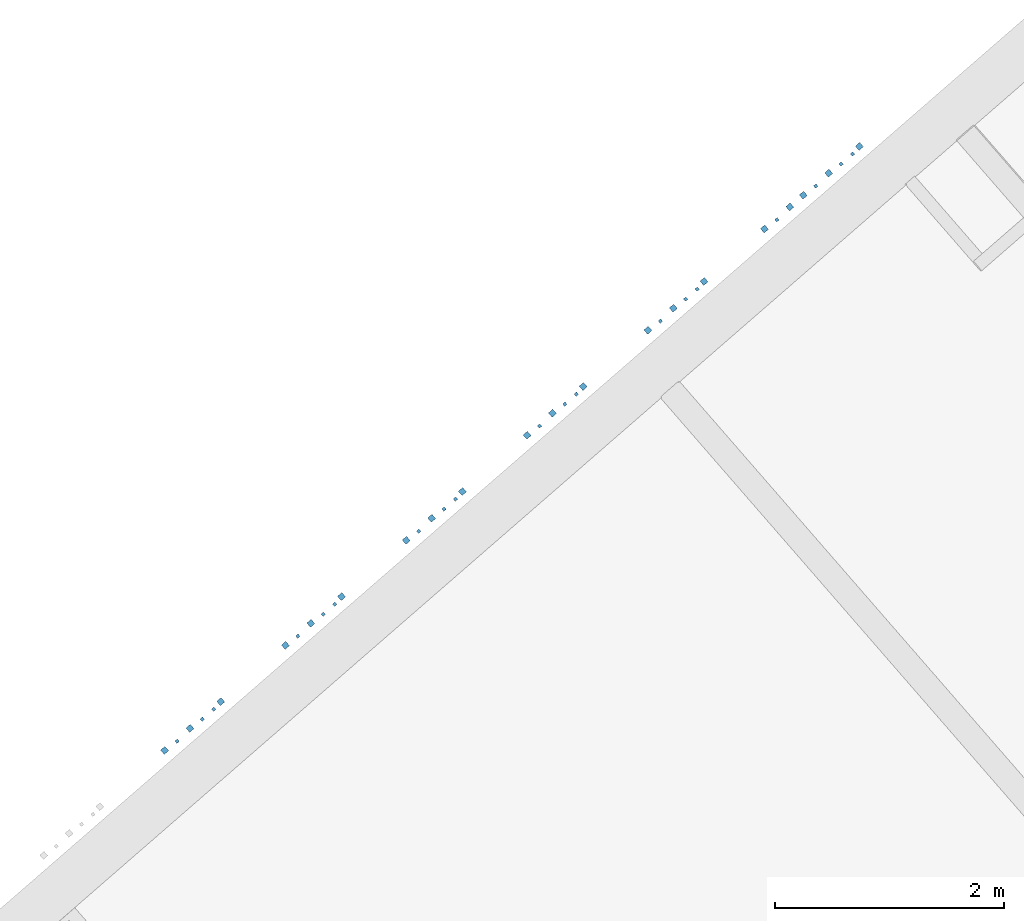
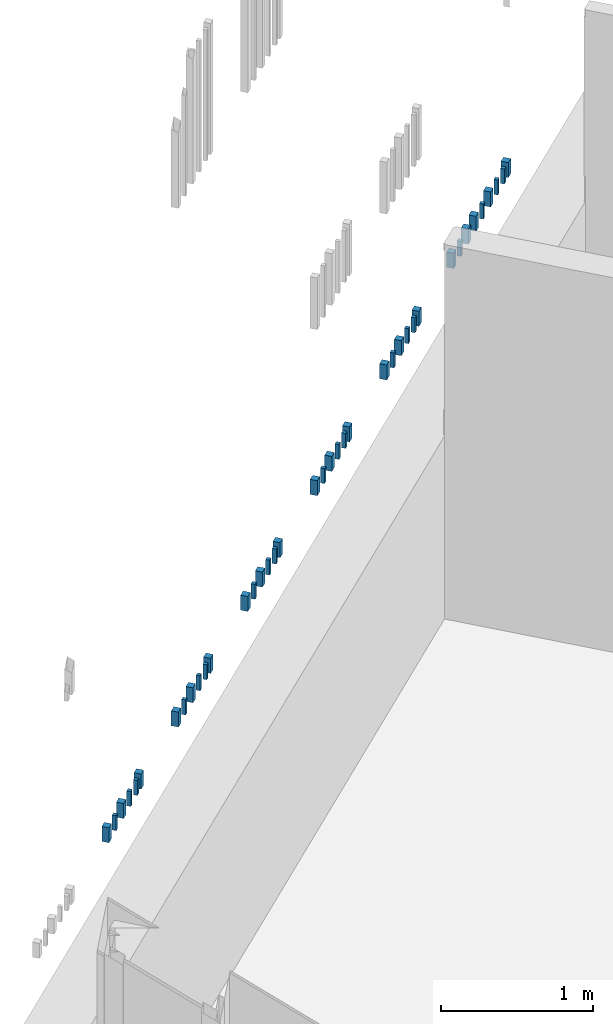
# One storey, part 4 of 124: 39 walls.
"""IFC2X3 building model written with IfcOpenShell, lengths in millimetres."""

from ifc_helpers import new_model, entity, si_unit, converted_unit, derived_unit, money_unit, direction, frame, origin_with_axes, origin_2d_with_axis, place, context, subcontext, project, spatial, rectangle, extrude, material, type_object, element, save


model = new_model("IFC2X3")

# Units and contexts
model_context = context("Model", 3, precision=1e-05, world=origin_with_axes(), true_north=direction((0.0, 1.0)))
body_context = subcontext(model_context, "Body", "Model", "MODEL_VIEW")
ifc_project = project(units=[si_unit("LENGTHUNIT", "METRE", prefix="MILLI"), si_unit("AREAUNIT", "SQUARE_METRE"), si_unit("VOLUMEUNIT", "CUBIC_METRE"), converted_unit("PLANEANGLEUNIT", "DEGREE", entity("IfcPlaneAngleMeasure", 0.0174532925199), si_unit("PLANEANGLEUNIT", "RADIAN"), dimensions=[0, 0, 0, 0, 0, 0, 0]), si_unit("SOLIDANGLEUNIT", "STERADIAN"), money_unit("EUR"), converted_unit("TIMEUNIT", "Year", entity("IfcTimeMeasure", 31556926.0), si_unit("TIMEUNIT", "SECOND"), dimensions=[0, 0, 1, 0, 0, 0, 0]), si_unit("MASSUNIT", "GRAM", prefix="KILO"), si_unit("THERMODYNAMICTEMPERATUREUNIT", "DEGREE_CELSIUS"), si_unit("LUMINOUSINTENSITYUNIT", "LUMEN"), si_unit("ENERGYUNIT", "JOULE", prefix="MEGA"), derived_unit("THERMALCONDUCTANCEUNIT", [(si_unit("POWERUNIT", "WATT"), 1), (si_unit("LENGTHUNIT", "METRE"), -1), (si_unit("THERMODYNAMICTEMPERATUREUNIT", "KELVIN"), -1)]), derived_unit("SPECIFICHEATCAPACITYUNIT", [(si_unit("ENERGYUNIT", "JOULE"), 1), (si_unit("MASSUNIT", "GRAM", prefix="KILO"), -1), (si_unit("THERMODYNAMICTEMPERATUREUNIT", "KELVIN"), -1)]), derived_unit("MASSDENSITYUNIT", [(si_unit("MASSUNIT", "GRAM", prefix="KILO"), 1), (si_unit("VOLUMEUNIT", "CUBIC_METRE"), -1)])], contexts=[model_context])

# Site, building, storey
site_placement = place(None, origin_with_axes())
site = spatial("IfcSite", under=ifc_project, at=site_placement, Name="Site", CompositionType="ELEMENT")
building_placement = place(site_placement, origin_with_axes())
building = spatial("IfcBuilding", under=site, at=building_placement, Name="Building", CompositionType="ELEMENT")
storey_placement = place(building_placement, frame((0.0, 0.0, -1615.0), z_axis=(0.0, 0.0, 1.0), x_axis=(1.0, 0.0, 0.0)))
storey = spatial("IfcBuildingStorey", under=building, at=storey_placement, Name="0  korrus", CompositionType="ELEMENT", Elevation=-1615.0)

# Walls
ifc_material = material(Name="Site specified")
wall_type = type_object("IfcWallType", Name="Puitfassaadi ribistik", PredefinedType="NOTDEFINED")
wall_1_placement = place(storey_placement, frame((153401.288708, 103371.546484, 1615.0), z_axis=(0.0, 0.0, 1.0), x_axis=(0.754709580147, 0.656059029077, 0.0)))
element("IfcWall", 1, at=wall_1_placement, inside=storey, type_object=wall_type, material=ifc_material, Name="Site specified", context=body_context, shape_type="SweptSolid", body=[
    extrude(rectangle(XDim=28.0, YDim=28.0, at=origin_2d_with_axis()), frame((0.0, 0.0, 0.0), z_axis=(0.0, 0.0, -1.0), x_axis=(-1.0, 0.0, 0.0)), (0.0, 0.0, -1.0), 120.0),
])
wall_2_placement = place(storey_placement, frame((153782.749862, 103717.72075, 1615.0), z_axis=(0.0, 0.0, 1.0), x_axis=(0.754709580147, 0.656059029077, 0.0)))
element("IfcWall", 2, at=wall_2_placement, inside=storey, type_object=wall_type, material=ifc_material, Name="Site specified", context=body_context, shape_type="SweptSolid", body=[
    extrude(rectangle(XDim=50.0, YDim=50.0, at=origin_2d_with_axis()), frame((0.0, 0.0, 0.0), z_axis=(0.0, 0.0, -1.0), x_axis=(-1.0, 0.0, 0.0)), (0.0, 0.0, -1.0), 120.0),
])
for number, where, z_axis, x_axis, name in (
    (3, (153722.794966, 103651.027611, 1615.0), (0.0, 0.0, 1.0), (0.754709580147, 0.656059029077, 0.0), "Site specified"),
    (4, (153622.418593, 103563.771761, 1615.0), (0.0, 0.0, 1.0), (0.754709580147, 0.656059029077, 0.0), "Site specified"),
):
    element("IfcWall", number, at=place(storey_placement, frame(where, z_axis=z_axis, x_axis=x_axis)), inside=storey, type_object=wall_type, material=ifc_material, Name=name, context=body_context, shape_type="SweptSolid", body=[
        extrude(rectangle(XDim=28.0, YDim=28.0, at=origin_2d_with_axis()), frame((0.0, 0.0, 0.0), z_axis=(0.0, 0.0, -1.0), x_axis=(-1.0, 0.0, 0.0)), (0.0, 0.0, -1.0), 120.0),
    ])
wall_3_placement = place(storey_placement, frame((153514.069, 103484.16004, 1615.0), z_axis=(0.0, 0.0, 1.0), x_axis=(0.754709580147, 0.656059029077, 0.0)))
element("IfcWall", 5, at=wall_3_placement, inside=storey, type_object=wall_type, material=ifc_material, Name="Site specified", context=body_context, shape_type="SweptSolid", body=[
    extrude(rectangle(XDim=50.0, YDim=50.0, at=origin_2d_with_axis()), frame((0.0, 0.0, 0.0), z_axis=(0.0, 0.0, -1.0), x_axis=(-1.0, 0.0, 0.0)), (0.0, 0.0, -1.0), 120.0),
])
for number, where, z_axis, x_axis, name in (
    (6, (159307.645862, 108505.864429, 1615.0), (0.0, 0.0, 1.0), (0.754709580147, 0.656059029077, 0.0), "Site specified"),
    (7, (159207.269489, 108418.608579, 1615.0), (0.0, 0.0, 1.0), (0.754709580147, 0.656059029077, 0.0), "Site specified"),
):
    element("IfcWall", number, at=place(storey_placement, frame(where, z_axis=z_axis, x_axis=x_axis)), inside=storey, type_object=wall_type, material=ifc_material, Name=name, context=body_context, shape_type="SweptSolid", body=[
        extrude(rectangle(XDim=28.0, YDim=28.0, at=origin_2d_with_axis()), frame((0.0, 0.0, 0.0), z_axis=(0.0, 0.0, -1.0), x_axis=(-1.0, 0.0, 0.0)), (0.0, 0.0, -1.0), 120.0),
    ])
for number, where, z_axis, x_axis, name in (
    (8, (155405.37121, 105128.243968, 1615.0), (0.0, 0.0, 1.0), (0.754709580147, 0.656059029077, 0.0), "Site specified"),
    (9, (158877.035281, 108146.115505, 1615.0), (0.0, 0.0, 1.0), (0.754709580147, 0.656059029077, 0.0), "Site specified"),
    (10, (156461.964622, 106046.726609, 1615.0), (0.0, 0.0, 1.0), (0.754709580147, 0.656059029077, 0.0), "Site specified"),
):
    element("IfcWall", number, at=place(storey_placement, frame(where, z_axis=z_axis, x_axis=x_axis)), inside=storey, type_object=wall_type, material=ifc_material, Name=name, context=body_context, shape_type="SweptSolid", body=[
        extrude(rectangle(XDim=50.0, YDim=50.0, at=origin_2d_with_axis()), frame((0.0, 0.0, 0.0), z_axis=(0.0, 0.0, -1.0), x_axis=(-1.0, 0.0, 0.0)), (0.0, 0.0, -1.0), 120.0),
    ])
wall_4_placement = place(storey_placement, frame((156571.068944, 106126.994406, 1615.0), z_axis=(0.0, 0.0, 1.0), x_axis=(0.754709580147, 0.656059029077, 0.0)))
element("IfcWall", 11, at=wall_4_placement, inside=storey, type_object=wall_type, material=ifc_material, Name="Site specified", context=body_context, shape_type="SweptSolid", body=[
    extrude(rectangle(XDim=28.0, YDim=28.0, at=origin_2d_with_axis()), frame((0.0, 0.0, 0.0), z_axis=(0.0, 0.0, -1.0), x_axis=(-1.0, 0.0, 0.0)), (0.0, 0.0, -1.0), 120.0),
])
wall_5_placement = place(storey_placement, frame((159367.600758, 108572.557568, 1615.0), z_axis=(0.0, 0.0, 1.0), x_axis=(0.754709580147, 0.656059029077, 0.0)))
element("IfcWall", 12, at=wall_5_placement, inside=storey, type_object=wall_type, material=ifc_material, Name="Site specified", context=body_context, shape_type="SweptSolid", body=[
    extrude(rectangle(XDim=50.0, YDim=50.0, at=origin_2d_with_axis()), frame((0.0, 0.0, 0.0), z_axis=(0.0, 0.0, -1.0), x_axis=(-1.0, 0.0, 0.0)), (0.0, 0.0, -1.0), 120.0),
])
for number, where, z_axis, x_axis, name in (
    (13, (155735.605417, 105400.737042, 1615.0), (0.0, 0.0, 1.0), (0.754709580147, 0.656059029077, 0.0), "Site specified"),
    (14, (156892.575203, 106406.475533, 1615.0), (0.0, 0.0, 1.0), (0.754709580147, 0.656059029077, 0.0), "Site specified"),
):
    element("IfcWall", number, at=place(storey_placement, frame(where, z_axis=z_axis, x_axis=x_axis)), inside=storey, type_object=wall_type, material=ifc_material, Name=name, context=body_context, shape_type="SweptSolid", body=[
        extrude(rectangle(XDim=28.0, YDim=28.0, at=origin_2d_with_axis()), frame((0.0, 0.0, 0.0), z_axis=(0.0, 0.0, -1.0), x_axis=(-1.0, 0.0, 0.0)), (0.0, 0.0, -1.0), 120.0),
    ])
wall_6_placement = place(storey_placement, frame((159098.919896, 108338.996858, 1615.0), z_axis=(0.0, 0.0, 1.0), x_axis=(0.754709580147, 0.656059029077, 0.0)))
element("IfcWall", 15, at=wall_6_placement, inside=storey, type_object=wall_type, material=ifc_material, Name="Site specified", context=body_context, shape_type="SweptSolid", body=[
    extrude(rectangle(XDim=50.0, YDim=50.0, at=origin_2d_with_axis()), frame((0.0, 0.0, 0.0), z_axis=(0.0, 0.0, -1.0), x_axis=(-1.0, 0.0, 0.0)), (0.0, 0.0, -1.0), 120.0),
])
for number, where, z_axis, x_axis, name in (
    (16, (155835.981791, 105487.992893, 1615.0), (0.0, 0.0, 1.0), (0.754709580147, 0.656059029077, 0.0), "Site specified"),
    (17, (155514.475532, 105208.511766, 1615.0), (0.0, 0.0, 1.0), (0.754709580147, 0.656059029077, 0.0), "Site specified"),
):
    element("IfcWall", number, at=place(storey_placement, frame(where, z_axis=z_axis, x_axis=x_axis)), inside=storey, type_object=wall_type, material=ifc_material, Name=name, context=body_context, shape_type="SweptSolid", body=[
        extrude(rectangle(XDim=28.0, YDim=28.0, at=origin_2d_with_axis()), frame((0.0, 0.0, 0.0), z_axis=(0.0, 0.0, -1.0), x_axis=(-1.0, 0.0, 0.0)), (0.0, 0.0, -1.0), 120.0),
    ])
wall_7_placement = place(storey_placement, frame((155627.255825, 105321.125321, 1615.0), z_axis=(0.0, 0.0, 1.0), x_axis=(0.754709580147, 0.656059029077, 0.0)))
element("IfcWall", 18, at=wall_7_placement, inside=storey, type_object=wall_type, material=ifc_material, Name="Site specified", context=body_context, shape_type="SweptSolid", body=[
    extrude(rectangle(XDim=50.0, YDim=50.0, at=origin_2d_with_axis()), frame((0.0, 0.0, 0.0), z_axis=(0.0, 0.0, -1.0), x_axis=(-1.0, 0.0, 0.0)), (0.0, 0.0, -1.0), 120.0),
])
for number, where, z_axis, x_axis, name in (
    (19, (158986.139604, 108226.383302, 1615.0), (0.0, 0.0, 1.0), (0.754709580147, 0.656059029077, 0.0), "Site specified"),
    (20, (156792.198829, 106319.219683, 1615.0), (0.0, 0.0, 1.0), (0.754709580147, 0.656059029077, 0.0), "Site specified"),
):
    element("IfcWall", number, at=place(storey_placement, frame(where, z_axis=z_axis, x_axis=x_axis)), inside=storey, type_object=wall_type, material=ifc_material, Name=name, context=body_context, shape_type="SweptSolid", body=[
        extrude(rectangle(XDim=28.0, YDim=28.0, at=origin_2d_with_axis()), frame((0.0, 0.0, 0.0), z_axis=(0.0, 0.0, -1.0), x_axis=(-1.0, 0.0, 0.0)), (0.0, 0.0, -1.0), 120.0),
    ])
for number, where, z_axis, x_axis, name in (
    (21, (156683.849237, 106239.607962, 1615.0), (0.0, 0.0, 1.0), (0.754709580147, 0.656059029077, 0.0), "Site specified"),
    (22, (155895.936687, 105554.686032, 1615.0), (0.0, 0.0, 1.0), (0.754709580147, 0.656059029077, 0.0), "Site specified"),
    (23, (156952.530099, 106473.168672, 1615.0), (0.0, 0.0, 1.0), (0.754709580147, 0.656059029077, 0.0), "Site specified"),
    (24, (157518.557791, 106965.209038, 1615.0), (0.0, 0.0, 1.0), (0.754709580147, 0.656059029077, 0.0), "Site specified"),
):
    element("IfcWall", number, at=place(storey_placement, frame(where, z_axis=z_axis, x_axis=x_axis)), inside=storey, type_object=wall_type, material=ifc_material, Name=name, context=body_context, shape_type="SweptSolid", body=[
        extrude(rectangle(XDim=50.0, YDim=50.0, at=origin_2d_with_axis()), frame((0.0, 0.0, 0.0), z_axis=(0.0, 0.0, -1.0), x_axis=(-1.0, 0.0, 0.0)), (0.0, 0.0, -1.0), 120.0),
    ])
for number, where, z_axis, x_axis, name in (
    (25, (157627.662113, 107045.476836, 1615.0), (0.0, 0.0, 1.0), (0.754709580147, 0.656059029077, 0.0), "Site specified"),
    (26, (157949.168372, 107324.957962, 1615.0), (0.0, 0.0, 1.0), (0.754709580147, 0.656059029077, 0.0), "Site specified"),
):
    element("IfcWall", number, at=place(storey_placement, frame(where, z_axis=z_axis, x_axis=x_axis)), inside=storey, type_object=wall_type, material=ifc_material, Name=name, context=body_context, shape_type="SweptSolid", body=[
        extrude(rectangle(XDim=28.0, YDim=28.0, at=origin_2d_with_axis()), frame((0.0, 0.0, 0.0), z_axis=(0.0, 0.0, -1.0), x_axis=(-1.0, 0.0, 0.0)), (0.0, 0.0, -1.0), 120.0),
    ])
for number, where, z_axis, x_axis, name in (
    (27, (158009.123268, 107391.651101, 1615.0), (0.0, 0.0, 1.0), (0.754709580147, 0.656059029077, 0.0), "Site specified"),
    (28, (157740.442406, 107158.090391, 1615.0), (0.0, 0.0, 1.0), (0.754709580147, 0.656059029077, 0.0), "Site specified"),
):
    element("IfcWall", number, at=place(storey_placement, frame(where, z_axis=z_axis, x_axis=x_axis)), inside=storey, type_object=wall_type, material=ifc_material, Name=name, context=body_context, shape_type="SweptSolid", body=[
        extrude(rectangle(XDim=50.0, YDim=50.0, at=origin_2d_with_axis()), frame((0.0, 0.0, 0.0), z_axis=(0.0, 0.0, -1.0), x_axis=(-1.0, 0.0, 0.0)), (0.0, 0.0, -1.0), 120.0),
    ])
wall_8_placement = place(storey_placement, frame((157848.791998, 107237.702112, 1615.0), z_axis=(0.0, 0.0, 1.0), x_axis=(0.754709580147, 0.656059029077, 0.0)))
element("IfcWall", 29, at=wall_8_placement, inside=storey, type_object=wall_type, material=ifc_material, Name="Site specified", context=body_context, shape_type="SweptSolid", body=[
    extrude(rectangle(XDim=28.0, YDim=28.0, at=origin_2d_with_axis()), frame((0.0, 0.0, 0.0), z_axis=(0.0, 0.0, -1.0), x_axis=(-1.0, 0.0, 0.0)), (0.0, 0.0, -1.0), 120.0),
])
for number, where, z_axis, x_axis, name in (
    (30, (158759.300095, 108043.769869, 1615.0), (0.0, 0.0, 1.0), (0.754709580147, 0.656059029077, 0.0), "Site specified"),
    (31, (158537.41548, 107850.888516, 1615.0), (0.0, 0.0, 1.0), (0.754709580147, 0.656059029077, 0.0), "Site specified"),
):
    element("IfcWall", number, at=place(storey_placement, frame(where, z_axis=z_axis, x_axis=x_axis)), inside=storey, type_object=wall_type, material=ifc_material, Name=name, context=body_context, shape_type="SweptSolid", body=[
        extrude(rectangle(XDim=50.0, YDim=50.0, at=origin_2d_with_axis()), frame((0.0, 0.0, 0.0), z_axis=(0.0, 0.0, -1.0), x_axis=(-1.0, 0.0, 0.0)), (0.0, 0.0, -1.0), 120.0),
    ])
wall_9_placement = place(storey_placement, frame((158646.519803, 107931.156313, 1615.0), z_axis=(0.0, 0.0, 1.0), x_axis=(0.754709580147, 0.656059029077, 0.0)))
element("IfcWall", 32, at=wall_9_placement, inside=storey, type_object=wall_type, material=ifc_material, Name="Site specified", context=body_context, shape_type="SweptSolid", body=[
    extrude(rectangle(XDim=28.0, YDim=28.0, at=origin_2d_with_axis()), frame((0.0, 0.0, 0.0), z_axis=(0.0, 0.0, -1.0), x_axis=(-1.0, 0.0, 0.0)), (0.0, 0.0, -1.0), 120.0),
])
wall_10_placement = place(storey_placement, frame((154348.777795, 104209.761325, 1615.0), z_axis=(0.0, 0.0, 1.0), x_axis=(0.754709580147, 0.656059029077, 0.0)))
element("IfcWall", 33, at=wall_10_placement, inside=storey, type_object=wall_type, material=ifc_material, Name="Site specified", context=body_context, shape_type="SweptSolid", body=[
    extrude(rectangle(XDim=50.0, YDim=50.0, at=origin_2d_with_axis()), frame((0.0, 0.0, 0.0), z_axis=(0.0, 0.0, -1.0), x_axis=(-1.0, 0.0, 0.0)), (0.0, 0.0, -1.0), 120.0),
])
for number, where, z_axis, x_axis, name in (
    (34, (154457.882117, 104290.029123, 1615.0), (0.0, 0.0, 1.0), (0.754709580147, 0.656059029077, 0.0), "Site specified"),
    (35, (154779.388376, 104569.510249, 1615.0), (0.0, 0.0, 1.0), (0.754709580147, 0.656059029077, 0.0), "Site specified"),
    (36, (154679.012002, 104482.254399, 1615.0), (0.0, 0.0, 1.0), (0.754709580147, 0.656059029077, 0.0), "Site specified"),
):
    element("IfcWall", number, at=place(storey_placement, frame(where, z_axis=z_axis, x_axis=x_axis)), inside=storey, type_object=wall_type, material=ifc_material, Name=name, context=body_context, shape_type="SweptSolid", body=[
        extrude(rectangle(XDim=28.0, YDim=28.0, at=origin_2d_with_axis()), frame((0.0, 0.0, 0.0), z_axis=(0.0, 0.0, -1.0), x_axis=(-1.0, 0.0, 0.0)), (0.0, 0.0, -1.0), 120.0),
    ])
for number, where, z_axis, x_axis, name in (
    (37, (154839.343272, 104636.203388, 1615.0), (0.0, 0.0, 1.0), (0.754709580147, 0.656059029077, 0.0), "Site specified"),
    (38, (154570.66241, 104402.642678, 1615.0), (0.0, 0.0, 1.0), (0.754709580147, 0.656059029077, 0.0), "Site specified"),
    (39, (153292.184385, 103291.278687, 1615.0), (0.0, 0.0, 1.0), (0.754709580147, 0.656059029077, 0.0), "Site specified"),
):
    element("IfcWall", number, at=place(storey_placement, frame(where, z_axis=z_axis, x_axis=x_axis)), inside=storey, type_object=wall_type, material=ifc_material, Name=name, context=body_context, shape_type="SweptSolid", body=[
        extrude(rectangle(XDim=50.0, YDim=50.0, at=origin_2d_with_axis()), frame((0.0, 0.0, 0.0), z_axis=(0.0, 0.0, -1.0), x_axis=(-1.0, 0.0, 0.0)), (0.0, 0.0, -1.0), 120.0),
    ])

save(model, "model.ifc")
